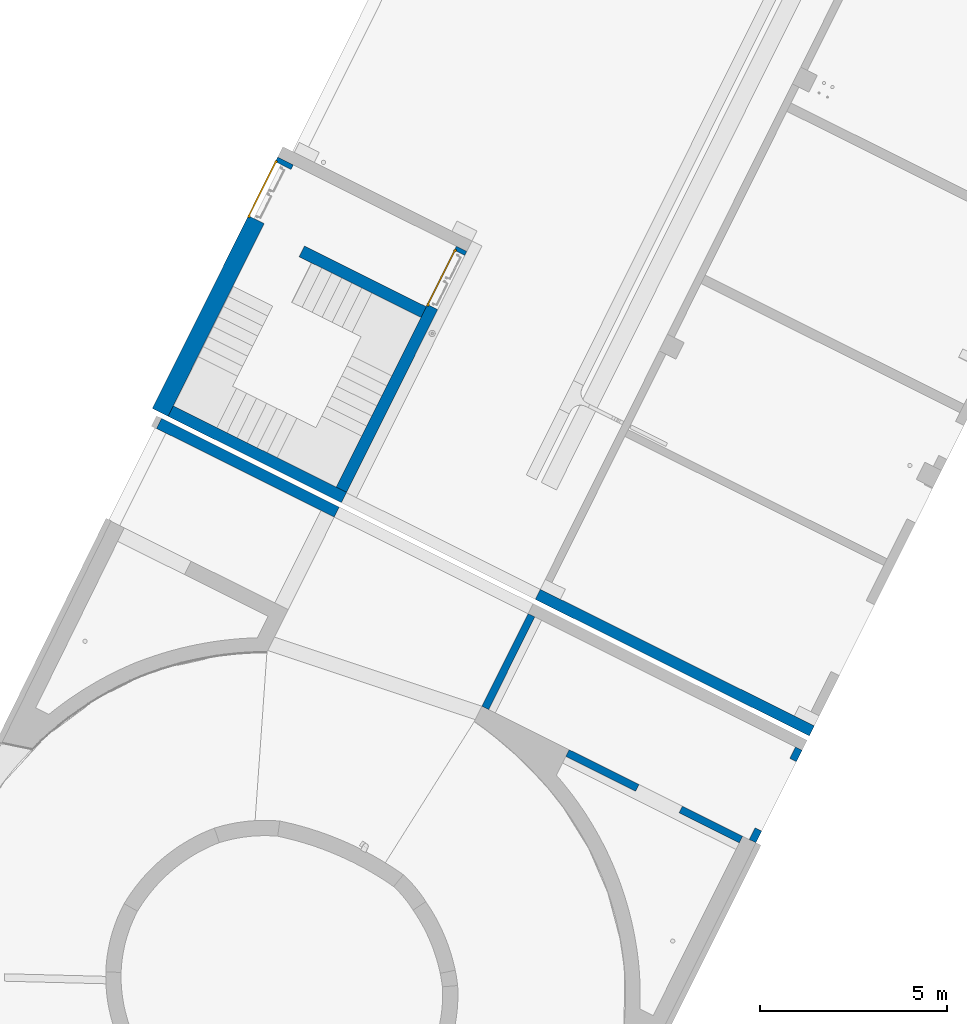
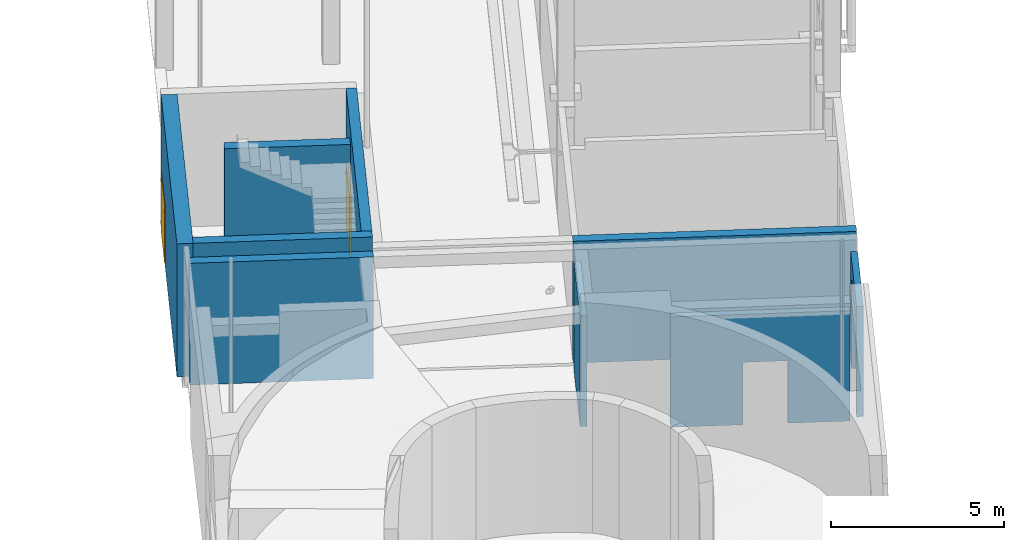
# One storey, part 9 of 91: 9 walls, 2 doors, 4 openings.
"""IFC2X3 building model written with IfcOpenShell, lengths in metres."""

from ifc_helpers import new_model, entity, si_unit, converted_unit, derived_unit, direction, frame, frame_2d, origin, origin_2d_with_axis, place, context, subcontext, project, spatial, rectangle, extrude, faceted_brep, source, transform, mapped, material, layer, layer_set, layer_usage, type_object, type_shapes, element, fill, save


model = new_model("IFC2X3")

# Units and contexts
model_context = context("Model", 3, precision=1e-05, world=origin(), true_north=direction((0.894925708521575, 0.446215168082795)))
context_of_model = context(None, 3, precision=1e-05, world=origin(), true_north=direction((0.894925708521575, 0.446215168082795)))
body_context = subcontext(model_context, "Body", "Model", "MODEL_VIEW")
ifc_project = project(units=[si_unit("LENGTHUNIT", "METRE"), si_unit("AREAUNIT", "SQUARE_METRE"), si_unit("VOLUMEUNIT", "CUBIC_METRE"), converted_unit("PLANEANGLEUNIT", "DEGREE", entity("IfcRatioMeasure", 0.0174532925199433), si_unit("PLANEANGLEUNIT", "RADIAN"), dimensions=[0, 0, 0, 0, 0, 0, 0]), si_unit("MASSUNIT", "GRAM", prefix="KILO"), si_unit("TIMEUNIT", "SECOND"), si_unit("FREQUENCYUNIT", "HERTZ"), si_unit("THERMODYNAMICTEMPERATUREUNIT", "DEGREE_CELSIUS"), derived_unit("THERMALTRANSMITTANCEUNIT", [(si_unit("MASSUNIT", "GRAM", prefix="KILO"), 1), (si_unit("THERMODYNAMICTEMPERATUREUNIT", "KELVIN"), -1), (si_unit("TIMEUNIT", "SECOND"), -3)]), derived_unit("VOLUMETRICFLOWRATEUNIT", [(si_unit("LENGTHUNIT", "METRE"), 3), (si_unit("TIMEUNIT", "SECOND"), -1)]), si_unit("ELECTRICCURRENTUNIT", "AMPERE"), si_unit("ELECTRICVOLTAGEUNIT", "VOLT"), si_unit("POWERUNIT", "WATT"), si_unit("FORCEUNIT", "NEWTON", prefix="KILO"), si_unit("ILLUMINANCEUNIT", "LUX"), si_unit("LUMINOUSFLUXUNIT", "LUMEN"), si_unit("LUMINOUSINTENSITYUNIT", "CANDELA"), si_unit("PRESSUREUNIT", "PASCAL")], contexts=[model_context, context_of_model])

# Site, building, storey
site_placement = place(None, frame((218.228324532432, 584.720189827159, 0.0), z_axis=(0.0, 0.0, 1.0), x_axis=(0.446215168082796, 0.894925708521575, 0.0)))
site = spatial("IfcSite", under=ifc_project, at=site_placement, Name="Default", CompositionType="ELEMENT")
building_placement = place(site_placement, origin())
building = spatial("IfcBuilding", under=site, at=building_placement, CompositionType="ELEMENT")
storey_placement = place(building_placement, origin())
storey = spatial("IfcBuildingStorey", under=building, at=storey_placement, Name="0 - Piano Terra", CompositionType="ELEMENT", Elevation=0.0)

# Wall, opening, door
ifc_material_1 = material(Name="Alluminio")
ifc_layer_1 = layer(ifc_material_1, 0.15)
ifc_material_2 = material(Name="Default - Calcestruzzo")
ifc_layer_2 = layer(ifc_material_2, 0.3)
ifc_material_3 = material(Name="Intonaco - Bianco")
ifc_layer_3 = layer(ifc_material_3, 0.02)
ifc_layer_set_1 = layer_set([ifc_layer_1, ifc_layer_2, ifc_layer_3], Name="Muro di base:Setto CA rivestito int-est 47 cm")
ifc_layer_usage_1 = layer_usage(ifc_layer_set_1, "AXIS2", "NEGATIVE", 0.235)
wall_type_1 = type_object("IfcWallType", Name="Muro di base:Setto CA rivestito int-est 47 cm", PredefinedType="STANDARD", material=ifc_layer_set_1)
wall_1_placement = place(storey_placement, frame((-60.5294493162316, 6.22392100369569, 0.0)))
wall_1 = element("IfcWallStandardCase", 1, at=wall_1_placement, inside=storey, type_object=wall_type_1, material=ifc_layer_usage_1, Name="Muro di base:Setto CA rivestito int-est 47 cm", ObjectType="Muro di base:Setto CA rivestito int-est 47 cm", context=body_context, shape_type="SweptSolid", body=[
    extrude(rectangle(XDim=7.51999999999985, YDim=0.469999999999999, at=frame_2d((3.75999999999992, 0.0), x_axis=(-1.0, 0.0))), origin(), (0.0, 0.0, 1.0), 4.69),
])
opening_1_placement = place(wall_1_placement, frame((5.72499999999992, -0.534999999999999, 0.0)))
opening_1 = element("IfcOpeningElement", 2, at=opening_1_placement, cuts=wall_1, Name="Muro di base:Setto CA rivestito int-est 47 cm", ObjectType="Opening", context=body_context, shape_type="Brep", body=[
    faceted_brep([(1.65999999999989, 0.0, 2.11000000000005), (1.65999999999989, 0.720000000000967, 2.11000000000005), (0.0399999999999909, 0.720000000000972, 2.11000000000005), (0.0399999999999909, 0.0, 2.11000000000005), (1.65999999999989, 1.07000000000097, 0.0), (1.65999999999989, 0.770000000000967, 0.0), (1.69999999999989, 0.770000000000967, 0.0), (1.69999999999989, 0.720000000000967, 0.0), (1.65999999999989, 0.720000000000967, 0.0), (1.65999999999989, 0.0, 0.0), (0.0399999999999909, 0.0, 0.0), (0.0399999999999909, 0.720000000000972, 0.0), (0.0, 0.720000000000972, 0.0), (0.0, 0.770000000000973, 0.0), (0.0399999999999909, 0.770000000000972, 0.0), (0.0399999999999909, 1.07000000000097, 0.0), (1.65999999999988, 1.07000000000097, 2.11000000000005), (0.0399999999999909, 1.07000000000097, 2.11000000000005), (1.65999999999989, 0.770000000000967, 2.11000000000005), (0.0, 0.770000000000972, 2.15000000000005), (1.69999999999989, 0.770000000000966, 2.15000000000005), (0.0399999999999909, 0.770000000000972, 2.11000000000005), (1.69999999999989, 0.720000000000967, 2.15000000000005), (0.0, 0.720000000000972, 2.15000000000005)], [[[0, 1, 2, 3]], [[4, 5, 6, 7, 8, 9, 10, 11, 12, 13, 14, 15]], [[16, 4, 15, 17]], [[3, 2, 11, 10]], [[3, 10, 9, 0]], [[16, 18, 5, 4]], [[13, 19, 20, 6, 5, 18, 21, 14]], [[11, 2, 1, 8, 7, 22, 23, 12]], [[12, 23, 19, 13]], [[19, 23, 22, 20]], [[20, 22, 7, 6]], [[9, 8, 1, 0]], [[15, 14, 21, 17]], [[17, 21, 18, 16]]]),
])
door_style_1 = type_object("IfcDoorStyle", Name="180x210", ConstructionType="NOTDEFINED", OperationType="DOUBLE_DOOR_SINGLE_SWING", ParameterTakesPrecedence=False, Sizeable=False, material=ifc_material_1)
shared_shape_1 = source(origin(), body_context, "Body", "Brep", [
    faceted_brep([(0.0499999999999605, -0.289999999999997, 0.0), (0.0499999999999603, -0.329999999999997, 0.0), (0.0649999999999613, -0.329999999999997, 0.0), (0.0649999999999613, -0.349999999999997, 0.0), (0.0, -0.349999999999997, 0.0), (0.0, -0.289999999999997, 0.0), (0.0499999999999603, -0.289999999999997, 2.10000000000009), (0.0499999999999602, -0.329999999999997, 2.10000000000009), (1.64999999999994, -0.330000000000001, 2.10000000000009), (1.64999999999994, -0.330000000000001, 0.0), (1.63499999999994, -0.330000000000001, 0.0), (1.63499999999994, -0.330000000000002, 2.08500000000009), (0.0649999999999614, -0.329999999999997, 2.08500000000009), (0.0649999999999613, -0.349999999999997, 2.08500000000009), (1.63499999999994, -0.350000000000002, 2.08500000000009), (1.63499999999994, -0.350000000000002, 0.0), (1.6999999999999, -0.350000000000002, 0.0), (1.6999999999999, -0.350000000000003, 2.15000000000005), (0.0, -0.349999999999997, 2.15000000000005), (0.0, -0.289999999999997, 2.15000000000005), (1.6999999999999, -0.290000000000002, 2.15000000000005), (1.6999999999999, -0.290000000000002, 0.0), (1.64999999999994, -0.290000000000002, 0.0), (1.64999999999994, -0.290000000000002, 2.10000000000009)], [[[0, 1, 2, 3, 4, 5]], [[1, 0, 6, 7]], [[2, 1, 7, 8, 9, 10, 11, 12]], [[3, 2, 12, 13]], [[4, 3, 13, 14, 15, 16, 17, 18]], [[5, 4, 18, 19]], [[0, 5, 19, 20, 21, 22, 23, 6]], [[8, 23, 22, 9]], [[22, 21, 16, 15, 10, 9]], [[14, 11, 10, 15]], [[20, 17, 16, 21]], [[7, 6, 23, 8]], [[13, 12, 11, 14]], [[19, 18, 17, 20]]]),
    faceted_brep([(0.84999999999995, -0.289999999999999, 2.1), (0.84999999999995, -0.289999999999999, 0.0), (0.0499999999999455, -0.289999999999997, 0.0), (0.0499999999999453, -0.289999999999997, 2.1), (0.849999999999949, -0.329999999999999, 2.1), (0.0499999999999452, -0.329999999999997, 2.1), (0.0499999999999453, -0.329999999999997, 0.0), (0.84999999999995, -0.329999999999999, 0.0)], [[[0, 1, 2, 3]], [[4, 5, 6, 7]], [[1, 0, 4, 7]], [[2, 1, 7, 6]], [[3, 2, 6, 5]], [[0, 3, 5, 4]]]),
    faceted_brep([(1.64999999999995, -0.29, 0.0), (0.84999999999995, -0.289999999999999, 0.0), (0.84999999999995, -0.289999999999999, 2.1), (1.64999999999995, -0.29, 2.1), (1.64999999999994, -0.330000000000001, 0.0), (1.64999999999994, -0.330000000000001, 2.1), (0.849999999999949, -0.329999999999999, 2.1), (0.84999999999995, -0.329999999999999, 0.0)], [[[0, 1, 2, 3]], [[4, 5, 6, 7]], [[1, 0, 4, 7]], [[2, 1, 7, 6]], [[3, 2, 6, 5]], [[0, 3, 5, 4]]]),
    faceted_brep([(0.864999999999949, -0.287000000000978, 2.1), (0.834999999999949, -0.287000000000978, 2.1), (0.834999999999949, -0.290000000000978, 2.1), (0.864999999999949, -0.290000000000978, 2.1), (0.864999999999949, -0.287000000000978, 0.0), (0.864999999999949, -0.290000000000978, 0.0), (0.834999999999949, -0.290000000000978, 0.0), (0.834999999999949, -0.287000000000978, 0.0)], [[[0, 1, 2, 3]], [[4, 5, 6, 7]], [[1, 0, 4, 7]], [[2, 1, 7, 6]], [[3, 2, 6, 5]], [[0, 3, 5, 4]]]),
    faceted_brep([(1.6599999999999, -0.280000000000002, 1.85000000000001), (1.64999999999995, -0.280000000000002, 1.85000000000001), (1.63499999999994, -0.290000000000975, 1.85000000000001), (1.6599999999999, -0.290000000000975, 1.85000000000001), (1.6599999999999, -0.280000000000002, 1.80000000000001), (1.64999999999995, -0.280000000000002, 1.80000000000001), (1.63499999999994, -0.290000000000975, 1.80000000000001), (1.6599999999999, -0.290000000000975, 1.80000000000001)], [[[0, 1, 2, 3]], [[1, 0, 4, 5]], [[2, 1, 5, 6]], [[3, 2, 6, 7]], [[0, 3, 7, 4]], [[4, 7, 6, 5]]]),
    faceted_brep([(0.0399999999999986, -0.280000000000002, 1.80000000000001), (0.0499999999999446, -0.280000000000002, 1.80000000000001), (0.064999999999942, -0.290000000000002, 1.80000000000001), (0.0399999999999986, -0.290000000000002, 1.80000000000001), (0.0399999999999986, -0.290000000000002, 1.85000000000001), (0.0399999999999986, -0.280000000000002, 1.85000000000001), (0.064999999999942, -0.290000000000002, 1.85000000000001), (0.0499999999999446, -0.280000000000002, 1.85000000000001)], [[[0, 1, 2, 3]], [[4, 5, 0, 3]], [[6, 4, 3, 2]], [[7, 6, 2, 1]], [[5, 7, 1, 0]], [[5, 4, 6, 7]]]),
    faceted_brep([(1.6599999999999, -0.280000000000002, 1.80000000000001), (1.64999999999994, -0.280000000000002, 1.80000000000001), (1.64999999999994, -0.290000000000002, 1.80000000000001), (1.6599999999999, -0.290000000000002, 1.80000000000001), (1.6599999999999, -0.280000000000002, 1.75000000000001), (1.64999999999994, -0.280000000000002, 1.75000000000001), (1.64999999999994, -0.290000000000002, 1.75000000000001), (1.6599999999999, -0.290000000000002, 1.75000000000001)], [[[0, 1, 2, 3]], [[1, 0, 4, 5]], [[2, 1, 5, 6]], [[3, 2, 6, 7]], [[0, 3, 7, 4]], [[4, 7, 6, 5]]]),
    faceted_brep([(0.0499999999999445, -0.280000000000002, 1.75000000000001), (0.0499999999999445, -0.290000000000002, 1.75000000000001), (0.0399999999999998, -0.290000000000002, 1.75000000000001), (0.0399999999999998, -0.280000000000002, 1.75000000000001), (0.0399999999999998, -0.280000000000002, 1.80000000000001), (0.0499999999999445, -0.280000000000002, 1.80000000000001), (0.0399999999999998, -0.290000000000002, 1.80000000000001), (0.0499999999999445, -0.290000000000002, 1.80000000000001)], [[[0, 1, 2, 3]], [[4, 5, 0, 3]], [[6, 4, 3, 2]], [[7, 6, 2, 1]], [[5, 7, 1, 0]], [[5, 4, 6, 7]]]),
    faceted_brep([(0.0399999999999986, -0.290000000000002, 0.349999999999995), (0.064999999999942, -0.290000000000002, 0.349999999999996), (0.0499999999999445, -0.280000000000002, 0.349999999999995), (0.0399999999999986, -0.280000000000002, 0.349999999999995), (0.0399999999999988, -0.290000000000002, 0.299999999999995), (0.0649999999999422, -0.290000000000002, 0.299999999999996), (0.0499999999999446, -0.280000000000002, 0.299999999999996), (0.0399999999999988, -0.280000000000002, 0.299999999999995)], [[[0, 1, 2, 3]], [[1, 0, 4, 5]], [[2, 1, 5, 6]], [[3, 2, 6, 7]], [[0, 3, 7, 4]], [[4, 7, 6, 5]]]),
    faceted_brep([(1.6599999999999, -0.280000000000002, 0.300000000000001), (1.6599999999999, -0.290000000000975, 0.300000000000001), (1.63499999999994, -0.290000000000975, 0.300000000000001), (1.64999999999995, -0.280000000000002, 0.300000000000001), (1.64999999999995, -0.280000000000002, 0.350000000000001), (1.6599999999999, -0.280000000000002, 0.350000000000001), (1.63499999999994, -0.290000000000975, 0.350000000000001), (1.6599999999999, -0.290000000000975, 0.350000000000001)], [[[0, 1, 2, 3]], [[4, 5, 0, 3]], [[6, 4, 3, 2]], [[7, 6, 2, 1]], [[5, 7, 1, 0]], [[5, 4, 6, 7]]]),
    faceted_brep([(1.64999999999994, -0.280000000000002, 0.300000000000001), (1.64999999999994, -0.290000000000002, 0.300000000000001), (1.6599999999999, -0.290000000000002, 0.300000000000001), (1.6599999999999, -0.280000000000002, 0.300000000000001), (1.64999999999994, -0.280000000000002, 0.250000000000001), (1.64999999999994, -0.290000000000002, 0.250000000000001), (1.6599999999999, -0.290000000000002, 0.250000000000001), (1.6599999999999, -0.280000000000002, 0.250000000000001)], [[[0, 1, 2, 3]], [[1, 0, 4, 5]], [[2, 1, 5, 6]], [[3, 2, 6, 7]], [[0, 3, 7, 4]], [[4, 7, 6, 5]]]),
    faceted_brep([(0.0499999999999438, -0.280000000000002, 0.249999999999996), (0.0499999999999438, -0.290000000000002, 0.249999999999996), (0.0399999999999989, -0.290000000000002, 0.249999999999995), (0.0399999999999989, -0.280000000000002, 0.249999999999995), (0.0399999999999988, -0.280000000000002, 0.299999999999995), (0.0499999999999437, -0.280000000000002, 0.299999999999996), (0.0399999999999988, -0.290000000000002, 0.299999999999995), (0.0499999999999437, -0.290000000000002, 0.299999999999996)], [[[0, 1, 2, 3]], [[4, 5, 0, 3]], [[6, 4, 3, 2]], [[7, 6, 2, 1]], [[5, 7, 1, 0]], [[5, 4, 6, 7]]]),
])
type_shapes(door_style_1, [shared_shape_1])
door_1_placement = place(storey_placement, frame((-54.8044493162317, 6.75892100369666, 0.0)))
door_1 = element("IfcDoor", 3, at=door_1_placement, inside=storey, type_object=door_style_1, material=ifc_material_1, Name="120-180x210 Uscita di sicurezza doppia:180x210", ObjectType="180x210", OverallHeight=2.15000000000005, OverallWidth=1.6999999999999, context=body_context, shape_type="MappedRepresentation", body=[
    mapped(shared_shape_1, transform((0.0, 0.0, 0.0), scale=1.0)),
])
fill(opening_1, door_1)

# Wall
ifc_layer_4 = layer(ifc_material_2, 0.3)
ifc_layer_5 = layer(ifc_material_3, 0.01)
ifc_layer_set_2 = layer_set([ifc_layer_4, ifc_layer_5], Name="Muro di base:Setto CA rivestito int - 31 cm")
ifc_layer_usage_2 = layer_usage(ifc_layer_set_2, "AXIS2", "NEGATIVE", 0.155)
wall_type_2 = type_object("IfcWallType", Name="Muro di base:Setto CA rivestito int - 31 cm", PredefinedType="STANDARD", material=ifc_layer_set_2)
wall_2_placement = place(storey_placement, frame((-60.3744493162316, 0.798921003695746, 0.0), z_axis=(0.0, 0.0, 1.0), x_axis=(0.0, 1.0, 0.0)))
element("IfcWallStandardCase", 4, at=wall_2_placement, inside=storey, type_object=wall_type_2, material=ifc_layer_usage_2, Name="Muro di base:Setto CA rivestito int - 31 cm", ObjectType="Muro di base:Setto CA rivestito int - 31 cm", context=body_context, shape_type="SweptSolid", body=[
    extrude(rectangle(XDim=5.18999999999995, YDim=0.309999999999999, at=frame_2d((2.59499999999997, 0.0), x_axis=(-1.0, 0.0))), origin(), (0.0, 0.0, 1.0), 4.69),
])

# Wall, opening, door
ifc_layer_usage_3 = layer_usage(ifc_layer_set_2, "AXIS2", "NEGATIVE", 0.155)
wall_3_placement = place(storey_placement, frame((-53.0094493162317, 0.953921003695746, 0.0), z_axis=(0.0, 0.0, 1.0), x_axis=(-1.0, 0.0, 0.0)))
wall_3 = element("IfcWallStandardCase", 5, at=wall_3_placement, inside=storey, type_object=wall_type_2, material=ifc_layer_usage_3, Name="Muro di base:Setto CA rivestito int - 31 cm", ObjectType="Muro di base:Setto CA rivestito int - 31 cm", context=body_context, shape_type="SweptSolid", body=[
    extrude(rectangle(XDim=7.20999999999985, YDim=0.31, at=frame_2d((3.60499999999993, 0.0), x_axis=(-1.0, 0.0))), origin(), (0.0, 0.0, 1.0), 4.69),
])
opening_2_placement = place(wall_3_placement, frame((1.77999999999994, 0.454999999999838, 0.0), z_axis=(0.0, 0.0, 1.0), x_axis=(-1.0, 0.0, 0.0)))
opening_2 = element("IfcOpeningElement", 6, at=opening_2_placement, cuts=wall_3, Name="Muro di base:Setto CA rivestito int - 31 cm", ObjectType="Opening", context=body_context, shape_type="Brep", body=[
    faceted_brep([(1.65999999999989, 0.0, 2.11000000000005), (1.65999999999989, 0.560000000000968, 2.11000000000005), (0.0399999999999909, 0.560000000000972, 2.11000000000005), (0.0399999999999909, 0.0, 2.11000000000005), (1.65999999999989, 0.91000000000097, 0.0), (1.65999999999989, 0.610000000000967, 0.0), (1.69999999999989, 0.610000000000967, 0.0), (1.69999999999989, 0.560000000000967, 0.0), (1.65999999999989, 0.560000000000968, 0.0), (1.65999999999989, 0.0, 0.0), (0.0399999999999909, 0.0, 0.0), (0.0399999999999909, 0.560000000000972, 0.0), (0.0, 0.560000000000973, 0.0), (0.0, 0.610000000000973, 0.0), (0.0399999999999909, 0.610000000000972, 0.0), (0.0399999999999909, 0.91000000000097, 0.0), (1.65999999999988, 0.91000000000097, 2.11000000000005), (0.0399999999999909, 0.91000000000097, 2.11000000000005), (1.65999999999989, 0.610000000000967, 2.11000000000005), (0.0, 0.610000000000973, 2.15000000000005), (1.69999999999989, 0.610000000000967, 2.15000000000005), (0.0399999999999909, 0.610000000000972, 2.11000000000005), (1.69999999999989, 0.560000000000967, 2.15000000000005), (0.0, 0.560000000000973, 2.15000000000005)], [[[0, 1, 2, 3]], [[4, 5, 6, 7, 8, 9, 10, 11, 12, 13, 14, 15]], [[16, 4, 15, 17]], [[3, 2, 11, 10]], [[3, 10, 9, 0]], [[16, 18, 5, 4]], [[13, 19, 20, 6, 5, 18, 21, 14]], [[11, 2, 1, 8, 7, 22, 23, 12]], [[12, 23, 19, 13]], [[19, 23, 22, 20]], [[20, 22, 7, 6]], [[9, 8, 1, 0]], [[15, 14, 21, 17]], [[17, 21, 18, 16]]]),
])
door_style_2 = type_object("IfcDoorStyle", Name="180x210", ConstructionType="NOTDEFINED", OperationType="DOUBLE_DOOR_SINGLE_SWING", ParameterTakesPrecedence=False, Sizeable=False, material=ifc_material_1)
shared_shape_2 = source(origin(), body_context, "Body", "Brep", [
    faceted_brep([(0.0499999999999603, 0.620000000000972, 0.0), (0.0499999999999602, 0.580000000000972, 0.0), (0.0649999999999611, 0.580000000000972, 0.0), (0.0649999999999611, 0.560000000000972, 0.0), (0.0, 0.560000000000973, 0.0), (0.0, 0.620000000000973, 0.0), (0.0499999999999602, 0.620000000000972, 2.10000000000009), (0.0499999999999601, 0.580000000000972, 2.10000000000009), (1.64999999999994, 0.580000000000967, 2.10000000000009), (1.64999999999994, 0.580000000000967, 0.0), (1.63499999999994, 0.580000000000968, 0.0), (1.63499999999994, 0.580000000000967, 2.08500000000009), (0.0649999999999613, 0.580000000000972, 2.08500000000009), (0.0649999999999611, 0.560000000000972, 2.08500000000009), (1.63499999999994, 0.560000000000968, 2.08500000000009), (1.63499999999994, 0.560000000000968, 0.0), (1.6999999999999, 0.560000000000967, 0.0), (1.6999999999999, 0.560000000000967, 2.15000000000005), (0.0, 0.560000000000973, 2.15000000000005), (0.0, 0.620000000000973, 2.15000000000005), (1.6999999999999, 0.620000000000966, 2.15000000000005), (1.6999999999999, 0.620000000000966, 0.0), (1.64999999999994, 0.620000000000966, 0.0), (1.64999999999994, 0.620000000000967, 2.10000000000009)], [[[0, 1, 2, 3, 4, 5]], [[1, 0, 6, 7]], [[2, 1, 7, 8, 9, 10, 11, 12]], [[3, 2, 12, 13]], [[4, 3, 13, 14, 15, 16, 17, 18]], [[5, 4, 18, 19]], [[0, 5, 19, 20, 21, 22, 23, 6]], [[8, 23, 22, 9]], [[22, 21, 16, 15, 10, 9]], [[14, 11, 10, 15]], [[20, 17, 16, 21]], [[7, 6, 23, 8]], [[13, 12, 11, 14]], [[19, 18, 17, 20]]]),
    faceted_brep([(0.849999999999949, 0.62000000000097, 2.1), (0.84999999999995, 0.62000000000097, 0.0), (0.0499999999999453, 0.620000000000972, 0.0), (0.0499999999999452, 0.620000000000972, 2.1), (0.849999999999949, 0.58000000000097, 2.1), (0.049999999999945, 0.580000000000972, 2.1), (0.0499999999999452, 0.580000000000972, 0.0), (0.849999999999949, 0.58000000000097, 0.0)], [[[0, 1, 2, 3]], [[4, 5, 6, 7]], [[1, 0, 4, 7]], [[2, 1, 7, 6]], [[3, 2, 6, 5]], [[0, 3, 5, 4]]]),
    faceted_brep([(1.64999999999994, 0.620000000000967, 0.0), (0.84999999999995, 0.62000000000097, 0.0), (0.849999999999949, 0.62000000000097, 2.1), (1.64999999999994, 0.620000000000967, 2.1), (1.64999999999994, 0.580000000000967, 0.0), (1.64999999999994, 0.580000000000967, 2.1), (0.849999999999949, 0.58000000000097, 2.1), (0.849999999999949, 0.58000000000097, 0.0)], [[[0, 1, 2, 3]], [[4, 5, 6, 7]], [[1, 0, 4, 7]], [[2, 1, 7, 6]], [[3, 2, 6, 5]], [[0, 3, 5, 4]]]),
    faceted_brep([(0.864999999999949, 0.622999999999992, 2.1), (0.834999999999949, 0.622999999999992, 2.1), (0.834999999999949, 0.619999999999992, 2.1), (0.864999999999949, 0.619999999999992, 2.1), (0.864999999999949, 0.622999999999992, 0.0), (0.864999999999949, 0.619999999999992, 0.0), (0.834999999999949, 0.619999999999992, 0.0), (0.834999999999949, 0.622999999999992, 0.0)], [[[0, 1, 2, 3]], [[4, 5, 6, 7]], [[1, 0, 4, 7]], [[2, 1, 7, 6]], [[3, 2, 6, 5]], [[0, 3, 5, 4]]]),
    faceted_brep([(1.6599999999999, 0.630000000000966, 1.85000000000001), (1.64999999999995, 0.630000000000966, 1.85000000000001), (1.63499999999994, 0.619999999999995, 1.85000000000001), (1.6599999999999, 0.619999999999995, 1.85000000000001), (1.6599999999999, 0.630000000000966, 1.80000000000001), (1.64999999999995, 0.630000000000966, 1.80000000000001), (1.63499999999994, 0.619999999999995, 1.80000000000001), (1.6599999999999, 0.619999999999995, 1.80000000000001)], [[[0, 1, 2, 3]], [[1, 0, 4, 5]], [[2, 1, 5, 6]], [[3, 2, 6, 7]], [[0, 3, 7, 4]], [[4, 7, 6, 5]]]),
    faceted_brep([(0.0399999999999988, 0.630000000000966, 1.80000000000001), (0.0499999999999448, 0.630000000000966, 1.80000000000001), (0.0649999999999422, 0.620000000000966, 1.80000000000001), (0.0399999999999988, 0.620000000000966, 1.80000000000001), (0.0399999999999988, 0.620000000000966, 1.85000000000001), (0.0399999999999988, 0.630000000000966, 1.85000000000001), (0.0649999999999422, 0.620000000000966, 1.85000000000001), (0.0499999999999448, 0.630000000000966, 1.85000000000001)], [[[0, 1, 2, 3]], [[4, 5, 0, 3]], [[6, 4, 3, 2]], [[7, 6, 2, 1]], [[5, 7, 1, 0]], [[5, 4, 6, 7]]]),
    faceted_brep([(1.6599999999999, 0.630000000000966, 1.80000000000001), (1.64999999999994, 0.630000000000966, 1.80000000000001), (1.64999999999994, 0.620000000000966, 1.80000000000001), (1.6599999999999, 0.620000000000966, 1.80000000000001), (1.6599999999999, 0.630000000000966, 1.75000000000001), (1.64999999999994, 0.630000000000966, 1.75000000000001), (1.64999999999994, 0.620000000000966, 1.75000000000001), (1.6599999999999, 0.620000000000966, 1.75000000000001)], [[[0, 1, 2, 3]], [[1, 0, 4, 5]], [[2, 1, 5, 6]], [[3, 2, 6, 7]], [[0, 3, 7, 4]], [[4, 7, 6, 5]]]),
    faceted_brep([(0.0499999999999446, 0.630000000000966, 1.75000000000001), (0.0499999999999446, 0.620000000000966, 1.75000000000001), (0.04, 0.620000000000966, 1.75000000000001), (0.04, 0.630000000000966, 1.75000000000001), (0.04, 0.630000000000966, 1.80000000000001), (0.0499999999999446, 0.630000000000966, 1.80000000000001), (0.04, 0.620000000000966, 1.80000000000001), (0.0499999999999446, 0.620000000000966, 1.80000000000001)], [[[0, 1, 2, 3]], [[4, 5, 0, 3]], [[6, 4, 3, 2]], [[7, 6, 2, 1]], [[5, 7, 1, 0]], [[5, 4, 6, 7]]]),
    faceted_brep([(0.0399999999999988, 0.620000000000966, 0.349999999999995), (0.0649999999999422, 0.620000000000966, 0.349999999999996), (0.0499999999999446, 0.630000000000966, 0.349999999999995), (0.0399999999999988, 0.630000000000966, 0.349999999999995), (0.0399999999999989, 0.620000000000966, 0.299999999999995), (0.0649999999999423, 0.620000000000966, 0.299999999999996), (0.0499999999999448, 0.630000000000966, 0.299999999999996), (0.0399999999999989, 0.630000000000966, 0.299999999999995)], [[[0, 1, 2, 3]], [[1, 0, 4, 5]], [[2, 1, 5, 6]], [[3, 2, 6, 7]], [[0, 3, 7, 4]], [[4, 7, 6, 5]]]),
    faceted_brep([(1.6599999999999, 0.630000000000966, 0.300000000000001), (1.6599999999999, 0.619999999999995, 0.300000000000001), (1.63499999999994, 0.619999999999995, 0.300000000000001), (1.64999999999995, 0.630000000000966, 0.300000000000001), (1.64999999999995, 0.630000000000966, 0.350000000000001), (1.6599999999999, 0.630000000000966, 0.350000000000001), (1.63499999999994, 0.619999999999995, 0.350000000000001), (1.6599999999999, 0.619999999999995, 0.350000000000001)], [[[0, 1, 2, 3]], [[4, 5, 0, 3]], [[6, 4, 3, 2]], [[7, 6, 2, 1]], [[5, 7, 1, 0]], [[5, 4, 6, 7]]]),
    faceted_brep([(1.64999999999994, 0.630000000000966, 0.300000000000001), (1.64999999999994, 0.620000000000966, 0.300000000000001), (1.6599999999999, 0.620000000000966, 0.300000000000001), (1.6599999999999, 0.630000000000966, 0.300000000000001), (1.64999999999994, 0.630000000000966, 0.250000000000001), (1.64999999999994, 0.620000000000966, 0.250000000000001), (1.6599999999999, 0.620000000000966, 0.250000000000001), (1.6599999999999, 0.630000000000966, 0.250000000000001)], [[[0, 1, 2, 3]], [[1, 0, 4, 5]], [[2, 1, 5, 6]], [[3, 2, 6, 7]], [[0, 3, 7, 4]], [[4, 7, 6, 5]]]),
    faceted_brep([(0.049999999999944, 0.630000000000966, 0.249999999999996), (0.049999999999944, 0.620000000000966, 0.249999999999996), (0.039999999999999, 0.620000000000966, 0.249999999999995), (0.039999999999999, 0.630000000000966, 0.249999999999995), (0.0399999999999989, 0.630000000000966, 0.299999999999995), (0.0499999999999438, 0.630000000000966, 0.299999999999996), (0.0399999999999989, 0.620000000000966, 0.299999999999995), (0.0499999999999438, 0.620000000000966, 0.299999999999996)], [[[0, 1, 2, 3]], [[4, 5, 0, 3]], [[6, 4, 3, 2]], [[7, 6, 2, 1]], [[5, 7, 1, 0]], [[5, 4, 6, 7]]]),
])
type_shapes(door_style_2, [shared_shape_2])
door_2_placement = place(storey_placement, frame((-54.7894493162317, 0.498921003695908, 0.0)))
door_2 = element("IfcDoor", 7, at=door_2_placement, inside=storey, type_object=door_style_2, material=ifc_material_1, Name="120-180x210 Uscita di sicurezza doppia:180x210", ObjectType="180x210", OverallHeight=2.15000000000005, OverallWidth=1.6999999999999, context=body_context, shape_type="MappedRepresentation", body=[
    mapped(shared_shape_2, transform((0.0, 0.0, 0.0), scale=1.0)),
])
fill(opening_2, door_2)

# Wall
ifc_material_4 = material(Name="Sabbia e Calcestruzzo")
ifc_layer_6 = layer(ifc_material_4, 0.2)
ifc_layer_set_3 = layer_set([ifc_layer_6], Name="Muro di base:Blocchetti - 20 cm")
ifc_layer_usage_4 = layer_usage(ifc_layer_set_3, "AXIS2", "NEGATIVE", 0.1)
wall_type_3 = type_object("IfcWallType", Name="Muro di base:Blocchetti - 20 cm", PredefinedType="STANDARD", material=ifc_layer_set_3)
wall_4_placement = place(storey_placement, frame((-63.7294493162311, -5.10107899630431, 0.0)))
element("IfcWallStandardCase", 8, at=wall_4_placement, inside=storey, type_object=wall_type_3, material=ifc_layer_usage_4, Name="Muro di base:Blocchetti - 20 cm", ObjectType="Muro di base:Blocchetti - 20 cm", context=body_context, shape_type="SweptSolid", body=[
    extrude(rectangle(XDim=2.76999999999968, YDim=0.2, at=frame_2d((1.38499999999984, 0.0), x_axis=(-1.0, 0.0))), origin(), (0.0, 0.0, 1.0), 3.89),
])

# Wall, opening
ifc_layer_usage_5 = layer_usage(ifc_layer_set_3, "AXIS2", "NEGATIVE", 0.1)
wall_5_placement = place(storey_placement, frame((-63.8294493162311, -12.8010845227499, 0.0), z_axis=(0.0, 0.0, 1.0), x_axis=(0.0, 1.0, 0.0)))
wall_5 = element("IfcWallStandardCase", 9, at=wall_5_placement, inside=storey, type_object=wall_type_3, material=ifc_layer_usage_5, Name="Muro di base:Blocchetti - 20 cm", ObjectType="Muro di base:Blocchetti - 20 cm", context=body_context, shape_type="SweptSolid", body=[
    extrude(rectangle(XDim=5.1900055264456, YDim=0.200000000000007, at=frame_2d((2.5950027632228, 0.0), x_axis=(-1.0, 0.0))), origin(), (0.0, 0.0, 1.0), 3.88999999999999),
])
opening_3_placement = place(wall_5_placement, frame((1.8, 1.624, 0.0)))
element("IfcOpeningElement", 10, at=opening_3_placement, cuts=wall_5, Name="Muro di base:Blocchetti - 20 cm", ObjectType="Opening", context=body_context, shape_type="SweptSolid", body=[
    extrude(rectangle(XDim=2.2, YDim=1.3, at=frame_2d((0.0, -4.9960036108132e-16), x_axis=(1.0, 0.0))), frame((0.649999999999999, -3.048, 1.1), z_axis=(0.0, 1.0, 0.0), x_axis=(0.0, 0.0, -1.0)), (0.0, 0.0, 1.0), 3.048),
])

ifc_layer_usage_6 = layer_usage(ifc_layer_set_3, "AXIS2", "NEGATIVE", 0.1)
wall_6_placement = place(storey_placement, frame((-63.7294493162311, -13.1010845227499, 0.0)))
wall_6 = element("IfcWallStandardCase", 11, at=wall_6_placement, inside=storey, type_object=wall_type_3, material=ifc_layer_usage_6, Name="Muro di base:Blocchetti - 20 cm", ObjectType="Muro di base:Blocchetti - 20 cm", context=body_context, shape_type="SweptSolid", body=[
    extrude(rectangle(XDim=2.76999999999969, YDim=0.199999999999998, at=frame_2d((1.38499999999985, 0.0), x_axis=(-1.0, 0.0))), origin(), (0.0, 0.0, 1.0), 3.89),
])
opening_4_placement = place(wall_6_placement, frame((0.349999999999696, -1.62400000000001, 0.0)))
element("IfcOpeningElement", 12, at=opening_4_placement, cuts=wall_6, Name="Muro di base:Blocchetti - 20 cm", ObjectType="Opening", context=body_context, shape_type="SweptSolid", body=[
    extrude(rectangle(XDim=3.25, YDim=2.08, at=frame_2d((0.0, 0.0), x_axis=(0.0, 1.0))), frame((1.04, 0.0, 1.625), z_axis=(0.0, 1.0, 0.0), x_axis=(1.0, 0.0, 0.0)), (0.0, 0.0, 1.0), 3.048),
])

# Walls
ifc_layer_7 = layer(ifc_material_3, 0.01)
ifc_layer_8 = layer(ifc_material_2, 0.3)
ifc_layer_9 = layer(ifc_material_3, 0.01)
ifc_layer_set_4 = layer_set([ifc_layer_7, ifc_layer_8, ifc_layer_9], Name="Muro di base:Setto CA rivestito int - est 32 cm")
ifc_layer_usage_7 = layer_usage(ifc_layer_set_4, "AXIS2", "NEGATIVE", 0.16)
wall_type_4 = type_object("IfcWallType", Name="Muro di base:Setto CA rivestito int - est 32 cm", PredefinedType="STANDARD", material=ifc_layer_set_4)
wall_7_placement = place(storey_placement, frame((-54.9794493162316, 4.75392100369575, 0.0), z_axis=(0.0, 0.0, 1.0), x_axis=(0.0, -1.0, 0.0)))
element("IfcWallStandardCase", 13, at=wall_7_placement, inside=storey, type_object=wall_type_4, material=ifc_layer_usage_7, Name="Muro di base:Setto CA rivestito int - est 32 cm", ObjectType="Muro di base:Setto CA rivestito int - est 32 cm", context=body_context, shape_type="SweptSolid", body=[
    extrude(rectangle(XDim=3.645, YDim=0.319999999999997, at=frame_2d((1.8225, 0.0), x_axis=(-1.0, 0.0))), origin(), (0.0, 0.0, 1.0), 4.2),
])
ifc_material_5 = material(Name="Calcestruzzo")
wall_type_5 = type_object("IfcWallType", Name="Setti C.a.2:Setti C.a.", PredefinedType="NOTDEFINED", material=ifc_material_5)
wall_8_placement = place(storey_placement, frame((-60.9594493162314, 0.798921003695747, 0.0), z_axis=(0.0, 0.0, 1.0), x_axis=(0.0, 1.0, 0.0)))
element("IfcWall", 14, at=wall_8_placement, inside=storey, type_object=wall_type_5, material=ifc_material_5, Name="Setti C.a.2:Setti C.a.", ObjectType="Setti C.a.2:Setti C.a.", context=body_context, shape_type="SweptSolid", body=[
    extrude(rectangle(XDim=5.32000000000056, YDim=0.300000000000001, at=origin_2d_with_axis()), frame((2.66000000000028, -0.149999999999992, 0.0)), (0.0, 0.0, 1.0), 4.29),
])
wall_type_6 = type_object("IfcWallType", Name="Setto C.a.6:Setto C.a.", PredefinedType="NOTDEFINED", material=ifc_material_2)
wall_9_placement = place(storey_placement, frame((-60.5294493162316, -13.2010789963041, 0.0), z_axis=(0.0, 0.0, 1.0), x_axis=(0.0, 1.0, 0.0)))
element("IfcWall", 15, at=wall_9_placement, inside=storey, type_object=wall_type_6, material=ifc_material_2, Name="Setto C.a.6:Setto C.a.", ObjectType="Setto C.a.6:Setto C.a.", context=body_context, shape_type="SweptSolid", body=[
    extrude(rectangle(XDim=0.300000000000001, YDim=8.19999999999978, at=origin_2d_with_axis()), frame((4.09999999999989, -0.150000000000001, 0.0), z_axis=(0.0, 0.0, 1.0), x_axis=(0.0, 1.0, 0.0)), (0.0, 0.0, 1.0), 4.29),
])

save(model, "model.ifc")
